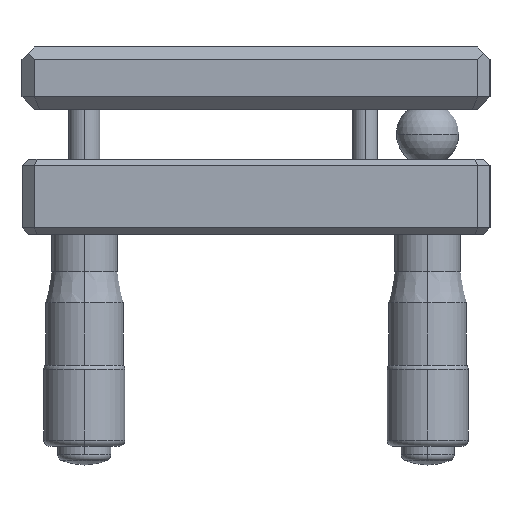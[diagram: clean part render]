
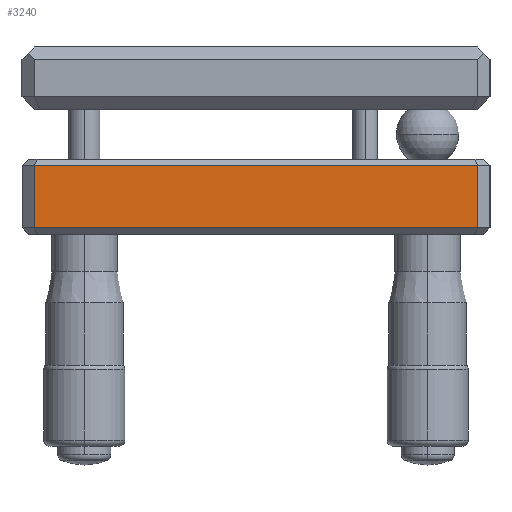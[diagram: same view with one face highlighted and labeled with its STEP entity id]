
A CAD part, left-side view. The second image highlights one B-rep face of the part: STEP entity #3240.
In plain terms, the highlighted planar face has unit normal (-1, 0, 0).
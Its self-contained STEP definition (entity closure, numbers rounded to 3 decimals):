
#90 = CARTESIAN_POINT ( 'NONE',  ( -43.598, 54.089, 126. ) ) ;
#204 = CARTESIAN_POINT ( 'NONE',  ( -43.598, -16.911, 137. ) ) ;
#523 = EDGE_CURVE ( 'NONE', #1667, #7161, #4423, .T. ) ;
#781 = VECTOR ( 'NONE', #6461, 1000. ) ;
#1209 = PLANE ( 'NONE',  #8408 ) ;
#1349 = DIRECTION ( 'NONE',  ( 0., -1., 0. ) ) ;
#1515 = ORIENTED_EDGE ( 'NONE', *, *, #3086, .T. ) ;
#1660 = DIRECTION ( 'NONE',  ( 0., 0., 1. ) ) ;
#1667 = VERTEX_POINT ( 'NONE', #4672 ) ;
#1823 = EDGE_CURVE ( 'NONE', #5335, #4906, #9044, .T. ) ;
#1933 = DIRECTION ( 'NONE',  ( 1., 0., 0. ) ) ;
#2649 = CARTESIAN_POINT ( 'NONE',  ( -43.598, 56.089, 137. ) ) ;
#2729 = VECTOR ( 'NONE', #6543, 1000. ) ;
#2886 = CARTESIAN_POINT ( 'NONE',  ( -43.598, 56.089, 126. ) ) ;
#2897 = EDGE_CURVE ( 'NONE', #5335, #7161, #8571, .T. ) ;
#3086 = EDGE_CURVE ( 'NONE', #1667, #4906, #4096, .T. ) ;
#3182 = VECTOR ( 'NONE', #1349, 1000. ) ;
#3240 = ADVANCED_FACE ( 'NONE', ( #8551 ), #1209, .F. ) ;
#3544 = CARTESIAN_POINT ( 'NONE',  ( -43.598, 54.089, 137. ) ) ;
#3790 = CARTESIAN_POINT ( 'NONE',  ( -43.598, -16.911, 136. ) ) ;
#4096 = LINE ( 'NONE', #204, #4908 ) ;
#4148 = EDGE_LOOP ( 'NONE', ( #7335, #7191, #1515, #7100 ) ) ;
#4423 = LINE ( 'NONE', #2886, #781 ) ;
#4672 = CARTESIAN_POINT ( 'NONE',  ( -43.598, -16.911, 126. ) ) ;
#4906 = VERTEX_POINT ( 'NONE', #3790 ) ;
#4908 = VECTOR ( 'NONE', #1660, 1000. ) ;
#5310 = CARTESIAN_POINT ( 'NONE',  ( -43.598, 54.089, 136. ) ) ;
#5335 = VERTEX_POINT ( 'NONE', #5310 ) ;
#6213 = DIRECTION ( 'NONE',  ( 0., 1., 0. ) ) ;
#6461 = DIRECTION ( 'NONE',  ( 0., 1., 0. ) ) ;
#6543 = DIRECTION ( 'NONE',  ( 0., 0., -1. ) ) ;
#7100 = ORIENTED_EDGE ( 'NONE', *, *, #1823, .F. ) ;
#7161 = VERTEX_POINT ( 'NONE', #90 ) ;
#7191 = ORIENTED_EDGE ( 'NONE', *, *, #523, .F. ) ;
#7335 = ORIENTED_EDGE ( 'NONE', *, *, #2897, .T. ) ;
#8053 = CARTESIAN_POINT ( 'NONE',  ( -43.598, 18.589, 136. ) ) ;
#8408 = AXIS2_PLACEMENT_3D ( 'NONE', #2649, #1933, #6213 ) ;
#8551 = FACE_OUTER_BOUND ( 'NONE', #4148, .T. ) ;
#8571 = LINE ( 'NONE', #3544, #2729 ) ;
#9044 = LINE ( 'NONE', #8053, #3182 ) ;
